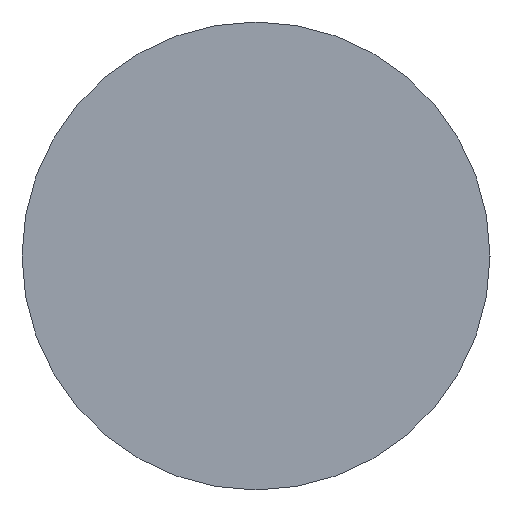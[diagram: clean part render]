
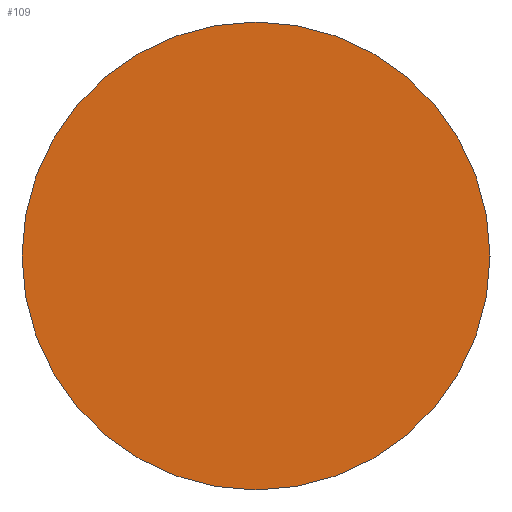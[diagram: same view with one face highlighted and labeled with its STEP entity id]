
A CAD part, left-side view. The second image highlights one B-rep face of the part: STEP entity #109.
In plain terms, the highlighted planar face has unit normal (-1, 0, 0).
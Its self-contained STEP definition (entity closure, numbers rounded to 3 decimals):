
#31 = CYLINDRICAL_SURFACE('',#32,0.575);
#32 = AXIS2_PLACEMENT_3D('',#33,#34,#35);
#33 = CARTESIAN_POINT('',(-17.5,2.,-8.905));
#34 = DIRECTION('',(1.,0.,0.));
#35 = DIRECTION('',(-0.,0.,1.));
#56 = VERTEX_POINT('',#57);
#57 = CARTESIAN_POINT('',(-17.5,2.,-8.33));
#78 = EDGE_CURVE('',#56,#56,#79,.T.);
#79 = SURFACE_CURVE('',#80,(#85,#92),.PCURVE_S1.);
#80 = CIRCLE('',#81,0.575);
#81 = AXIS2_PLACEMENT_3D('',#82,#83,#84);
#82 = CARTESIAN_POINT('',(-17.5,2.,-8.905));
#83 = DIRECTION('',(1.,0.,0.));
#84 = DIRECTION('',(-0.,0.,1.));
#85 = PCURVE('',#31,#86);
#86 = DEFINITIONAL_REPRESENTATION('',(#87),#91);
#87 = LINE('',#88,#89);
#88 = CARTESIAN_POINT('',(0.,0.));
#89 = VECTOR('',#90,1.);
#90 = DIRECTION('',(1.,0.));
#91 = ( GEOMETRIC_REPRESENTATION_CONTEXT(2) 
PARAMETRIC_REPRESENTATION_CONTEXT() REPRESENTATION_CONTEXT('2D SPACE',''
  ) );
#92 = PCURVE('',#93,#98);
#93 = PLANE('',#94);
#94 = AXIS2_PLACEMENT_3D('',#95,#96,#97);
#95 = CARTESIAN_POINT('',(-17.5,2.,-8.905));
#96 = DIRECTION('',(1.,0.,0.));
#97 = DIRECTION('',(-0.,0.,1.));
#98 = DEFINITIONAL_REPRESENTATION('',(#99),#103);
#99 = CIRCLE('',#100,0.575);
#100 = AXIS2_PLACEMENT_2D('',#101,#102);
#101 = CARTESIAN_POINT('',(0.,0.));
#102 = DIRECTION('',(1.,0.));
#103 = ( GEOMETRIC_REPRESENTATION_CONTEXT(2) 
PARAMETRIC_REPRESENTATION_CONTEXT() REPRESENTATION_CONTEXT('2D SPACE',''
  ) );
#109 = ADVANCED_FACE('',(#110),#93,.F.);
#110 = FACE_BOUND('',#111,.T.);
#111 = EDGE_LOOP('',(#112));
#112 = ORIENTED_EDGE('',*,*,#78,.F.);
